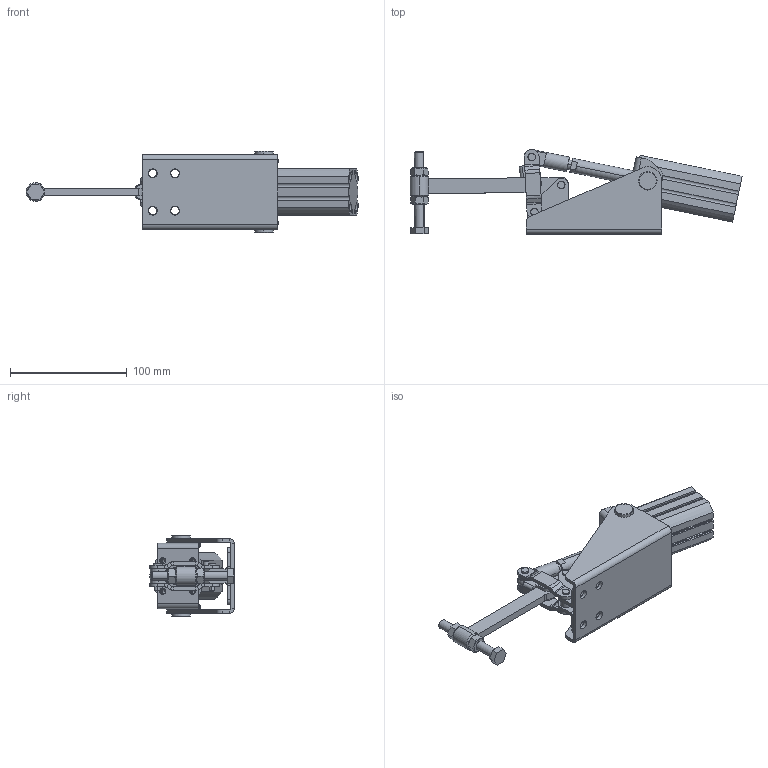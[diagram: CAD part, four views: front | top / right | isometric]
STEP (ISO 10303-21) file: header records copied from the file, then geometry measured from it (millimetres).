
FILE_DESCRIPTION (( 'STEP AP203' ), '1' );
FILE_NAME ('KF-017 DS P.STEP', '2014-08-28T17:28:16', ( 'Ricardo' ), ( '' ), 'SwSTEP 2.0', 'SolidWorks 2013', '' );
FILE_SCHEMA (( 'CONFIG_CONTROL_DESIGN' ));
Length unit declared in the file: millimetre
Products named in the file (22): 04.20001; CD55B25-50M_avan㌢do; 501-012; 04.10001; KF-017 DS P; 03.15002; 05.20017; 20.20004; 06.50001; 12.50020; 06.50002; 11.50002; 15.10053; 01.10008; PSB-M8; 15.10054; 02.12001_Direita; HI_CD55B25-50(0)_BODY; 15.20007; 02.12001_Esquerda; HI_C55B25-50M(0)_ROD; 16.20068
Assembly tree (27 placements, depth 3):
  KF-017 DS P
    01.10008  x2
    02.12001_Direita
    02.12001_Esquerda
    04.20001
    04.10001
    05.20017
    06.50001  x2
    06.50002  x2
    15.10053
    15.10054
    15.20007
    16.20068  x2
    501-012  x2
    03.15002
    PSB-M8
      20.20004
      12.50020
      11.50002  x2
    CD55B25-50M_avan㌢do
      HI_CD55B25-50(0)_BODY
      HI_C55B25-50M(0)_ROD
Bounding box: 284.13 x 72.49 x 70 mm (x, y, z)
Volume: 193478.4 mm3; surface area: 108185.2 mm2
Topology: 25 solids, 25 shells, 654 faces, 1536 edges, 955 vertices
Faces by surface type: cylinder 302, plane 275, cone 74, torus 2, sphere 1
Entity records: 18181 total; most frequent: DIRECTION 2941, CARTESIAN_POINT 2735, ORIENTED_EDGE 2510, EDGE_CURVE 1255, AXIS2_PLACEMENT_3D 1133, VERTEX_POINT 791, VECTOR 675, LINE 675
